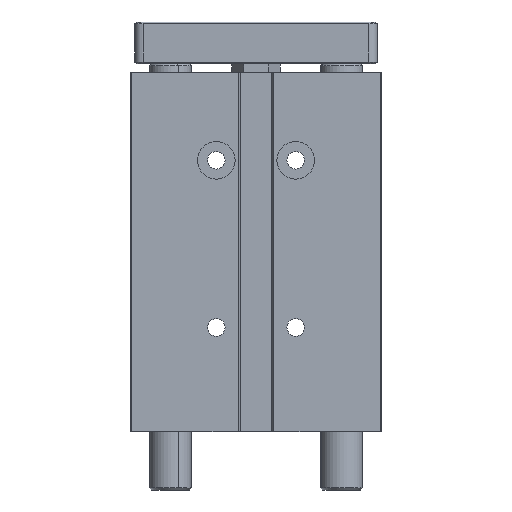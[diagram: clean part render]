
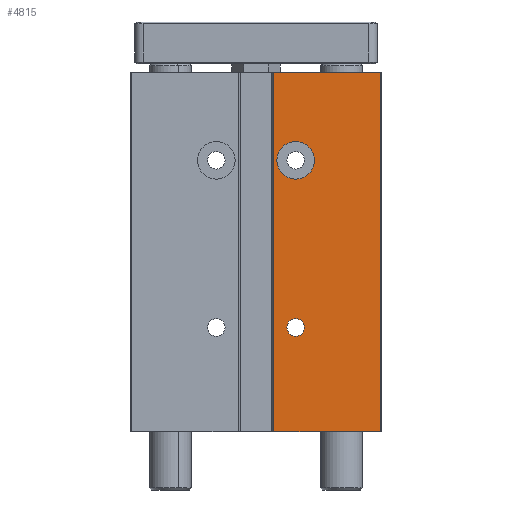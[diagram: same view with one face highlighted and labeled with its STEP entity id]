
A CAD part, front view. The second image highlights one B-rep face of the part: STEP entity #4815.
In plain terms, the highlighted planar face has unit normal (0, -1, 0).
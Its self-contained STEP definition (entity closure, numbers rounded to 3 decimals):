
#756 = CARTESIAN_POINT ( 'NONE',  ( 29.7, -14., 0. ) ) ;
#1210 = EDGE_CURVE ( 'NONE', #14333, #5325, #4404, .T. ) ;
#1551 = CARTESIAN_POINT ( 'NONE',  ( 9.5, -14., -16.5 ) ) ;
#2730 = DIRECTION ( 'NONE',  ( 0., 0., -1. ) ) ;
#3452 = ORIENTED_EDGE ( 'NONE', *, *, #10598, .F. ) ;
#3810 = FACE_BOUND ( 'NONE', #14391, .T. ) ;
#4404 = LINE ( 'NONE', #756, #19109 ) ;
#4618 = PLANE ( 'NONE',  #7090 ) ;
#4815 = ADVANCED_FACE ( 'NONE', ( #3810, #19117, #13693 ), #4618, .F. ) ;
#4967 = AXIS2_PLACEMENT_3D ( 'NONE', #17301, #19197, #21226 ) ;
#5325 = VERTEX_POINT ( 'NONE', #17471 ) ;
#5606 = CIRCLE ( 'NONE', #18166, 4.5 ) ;
#5692 = DIRECTION ( 'NONE',  ( 0., -1., 0. ) ) ;
#5886 = EDGE_CURVE ( 'NONE', #16422, #14333, #24141, .T. ) ;
#5976 = EDGE_CURVE ( 'NONE', #15787, #16422, #19962, .T. ) ;
#5996 = CIRCLE ( 'NONE', #4967, 2.1 ) ;
#6209 = VERTEX_POINT ( 'NONE', #23083 ) ;
#6266 = ORIENTED_EDGE ( 'NONE', *, *, #5886, .F. ) ;
#6682 = DIRECTION ( 'NONE',  ( 0., 0., 1. ) ) ;
#7090 = AXIS2_PLACEMENT_3D ( 'NONE', #23074, #18882, #6682 ) ;
#7303 = CARTESIAN_POINT ( 'NONE',  ( 4.3, -14., 0. ) ) ;
#8402 = ORIENTED_EDGE ( 'NONE', *, *, #5976, .F. ) ;
#8665 = CARTESIAN_POINT ( 'NONE',  ( 4.3, -14., 0. ) ) ;
#8771 = ORIENTED_EDGE ( 'NONE', *, *, #1210, .F. ) ;
#8847 = DIRECTION ( 'NONE',  ( 0., 0., 1. ) ) ;
#9128 = EDGE_LOOP ( 'NONE', ( #3452, #9846 ) ) ;
#9794 = CARTESIAN_POINT ( 'NONE',  ( 9.5, -14., -21. ) ) ;
#9846 = ORIENTED_EDGE ( 'NONE', *, *, #16696, .F. ) ;
#10084 = CARTESIAN_POINT ( 'NONE',  ( 0., -14., 0. ) ) ;
#10530 = ORIENTED_EDGE ( 'NONE', *, *, #22005, .F. ) ;
#10598 = EDGE_CURVE ( 'NONE', #6209, #11338, #5996, .T. ) ;
#11185 = EDGE_LOOP ( 'NONE', ( #8771, #6266, #8402, #20856 ) ) ;
#11338 = VERTEX_POINT ( 'NONE', #20584 ) ;
#11645 = CARTESIAN_POINT ( 'NONE',  ( 9.5, -14., -21. ) ) ;
#12056 = CARTESIAN_POINT ( 'NONE',  ( 9.5, -14., -25.5 ) ) ;
#12670 = VECTOR ( 'NONE', #8847, 1000. ) ;
#13693 = FACE_OUTER_BOUND ( 'NONE', #11185, .T. ) ;
#14223 = CIRCLE ( 'NONE', #22588, 4.5 ) ;
#14309 = CARTESIAN_POINT ( 'NONE',  ( 9.5, -14., -61. ) ) ;
#14333 = VERTEX_POINT ( 'NONE', #19920 ) ;
#14391 = EDGE_LOOP ( 'NONE', ( #10530, #18315 ) ) ;
#14431 = DIRECTION ( 'NONE',  ( 1., 0., 0. ) ) ;
#14815 = CARTESIAN_POINT ( 'NONE',  ( 4.3, -14., -86. ) ) ;
#15721 = DIRECTION ( 'NONE',  ( 0., 0., -1. ) ) ;
#15787 = VERTEX_POINT ( 'NONE', #14815 ) ;
#16342 = DIRECTION ( 'NONE',  ( 0., -1., 0. ) ) ;
#16422 = VERTEX_POINT ( 'NONE', #7303 ) ;
#16696 = EDGE_CURVE ( 'NONE', #11338, #6209, #20389, .T. ) ;
#17301 = CARTESIAN_POINT ( 'NONE',  ( 9.5, -14., -61. ) ) ;
#17471 = CARTESIAN_POINT ( 'NONE',  ( 29.7, -14., -86. ) ) ;
#17705 = LINE ( 'NONE', #20095, #18035 ) ;
#18030 = VERTEX_POINT ( 'NONE', #12056 ) ;
#18035 = VECTOR ( 'NONE', #22138, 1000. ) ;
#18166 = AXIS2_PLACEMENT_3D ( 'NONE', #9794, #5692, #20193 ) ;
#18315 = ORIENTED_EDGE ( 'NONE', *, *, #21780, .F. ) ;
#18740 = VECTOR ( 'NONE', #14431, 1000. ) ;
#18882 = DIRECTION ( 'NONE',  ( 0., 1., 0. ) ) ;
#19109 = VECTOR ( 'NONE', #2730, 1000. ) ;
#19117 = FACE_BOUND ( 'NONE', #9128, .T. ) ;
#19197 = DIRECTION ( 'NONE',  ( 0., -1., 0. ) ) ;
#19642 = DIRECTION ( 'NONE',  ( 0., -1., 0. ) ) ;
#19920 = CARTESIAN_POINT ( 'NONE',  ( 29.7, -14., 0. ) ) ;
#19929 = AXIS2_PLACEMENT_3D ( 'NONE', #14309, #16342, #22491 ) ;
#19962 = LINE ( 'NONE', #8665, #12670 ) ;
#20095 = CARTESIAN_POINT ( 'NONE',  ( -30., -14., -86. ) ) ;
#20193 = DIRECTION ( 'NONE',  ( 0., 0., -1. ) ) ;
#20389 = CIRCLE ( 'NONE', #19929, 2.1 ) ;
#20584 = CARTESIAN_POINT ( 'NONE',  ( 9.5, -14., -58.9 ) ) ;
#20856 = ORIENTED_EDGE ( 'NONE', *, *, #21809, .T. ) ;
#21226 = DIRECTION ( 'NONE',  ( 0., 0., -1. ) ) ;
#21780 = EDGE_CURVE ( 'NONE', #22108, #18030, #5606, .T. ) ;
#21809 = EDGE_CURVE ( 'NONE', #15787, #5325, #17705, .T. ) ;
#22005 = EDGE_CURVE ( 'NONE', #18030, #22108, #14223, .T. ) ;
#22108 = VERTEX_POINT ( 'NONE', #1551 ) ;
#22138 = DIRECTION ( 'NONE',  ( 1., 0., 0. ) ) ;
#22491 = DIRECTION ( 'NONE',  ( 0., 0., -1. ) ) ;
#22588 = AXIS2_PLACEMENT_3D ( 'NONE', #11645, #19642, #15721 ) ;
#23074 = CARTESIAN_POINT ( 'NONE',  ( -30., -14., 0. ) ) ;
#23083 = CARTESIAN_POINT ( 'NONE',  ( 9.5, -14., -63.1 ) ) ;
#24141 = LINE ( 'NONE', #10084, #18740 ) ;
